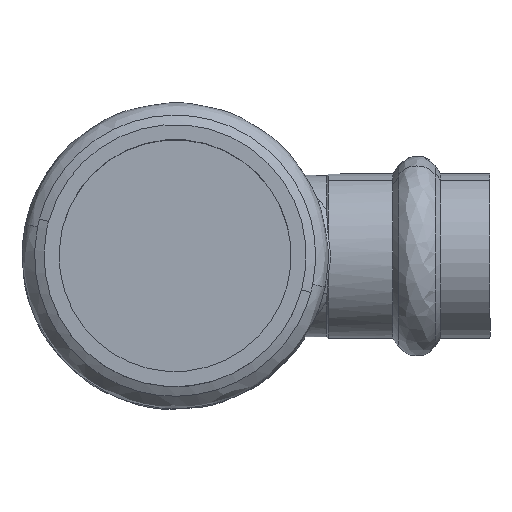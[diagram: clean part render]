
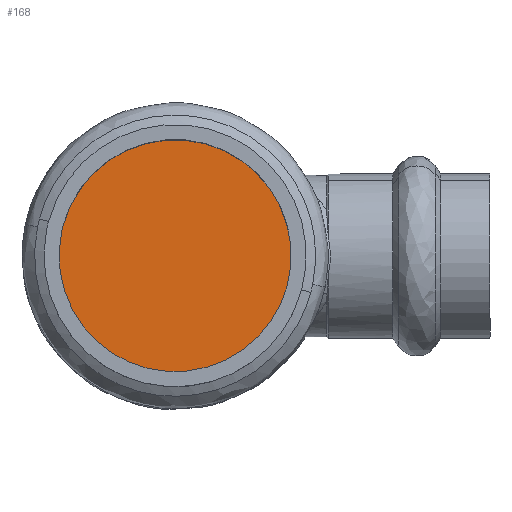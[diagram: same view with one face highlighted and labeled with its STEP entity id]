
A CAD part, top view. The second image highlights one B-rep face of the part: STEP entity #168.
In plain terms, the highlighted planar face has unit normal (0, 0, 1).
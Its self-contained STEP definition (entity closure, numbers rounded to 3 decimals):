
#168=ADVANCED_FACE('',(#346),#347,.T.);
#346=FACE_OUTER_BOUND('',#1266,.T.);
#347=PLANE('',#1267);
#1266=EDGE_LOOP('',(#1849,#1850,#1851));
#1267=AXIS2_PLACEMENT_3D('',#1852,#1853,#1854);
#1849=ORIENTED_EDGE('',*,*,#2091,.T.);
#1850=ORIENTED_EDGE('',*,*,#2218,.T.);
#1851=ORIENTED_EDGE('',*,*,#2092,.T.);
#1852=CARTESIAN_POINT('',(54.158,9.662,18.5));
#1853=DIRECTION('',(0.,0.,1.0));
#1854=DIRECTION('',(1.0,0.0,0.));
#2091=EDGE_CURVE('',#2393,#2391,#2394,.T.);
#2092=EDGE_CURVE('',#2385,#2393,#2395,.T.);
#2218=EDGE_CURVE('',#2391,#2385,#2578,.T.);
#2385=VERTEX_POINT('',#3206);
#2391=VERTEX_POINT('',#3213);
#2393=VERTEX_POINT('',#3216);
#2394=CIRCLE('',#3217,15.85);
#2395=CIRCLE('',#3218,15.85);
#2578=CIRCLE('',#3667,15.85);
#3206=CARTESIAN_POINT('',(-15.301,4.135,18.5));
#3213=CARTESIAN_POINT('',(15.301,-4.135,18.5));
#3216=CARTESIAN_POINT('',(-15.514,3.247,18.5));
#3217=AXIS2_PLACEMENT_3D('',#3851,#3852,#3853);
#3218=AXIS2_PLACEMENT_3D('',#3854,#3855,#3856);
#3667=AXIS2_PLACEMENT_3D('',#4011,#4012,#4013);
#3851=CARTESIAN_POINT('',(0.,0.,18.5));
#3852=DIRECTION('',(0.,0.,1.0));
#3853=DIRECTION('',(-0.979,0.205,0.));
#3854=CARTESIAN_POINT('',(0.,0.,18.5));
#3855=DIRECTION('',(0.,0.,1.0));
#3856=DIRECTION('',(-0.979,0.205,0.));
#4011=CARTESIAN_POINT('',(0.,0.,18.5));
#4012=DIRECTION('',(0.,0.,1.0));
#4013=DIRECTION('',(-0.979,0.205,0.));
